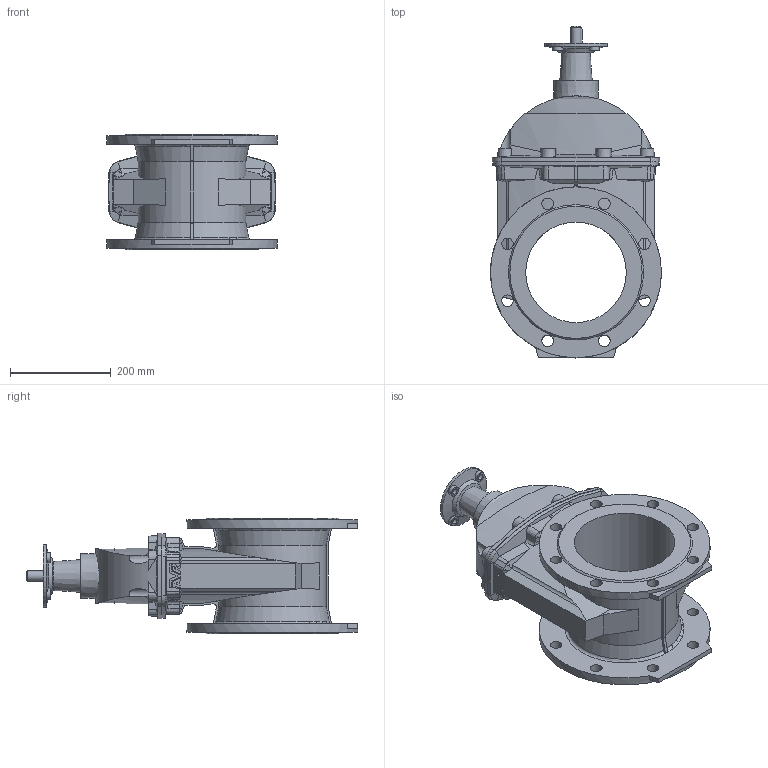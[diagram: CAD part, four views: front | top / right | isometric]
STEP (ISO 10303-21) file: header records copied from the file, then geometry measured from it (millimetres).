
FILE_DESCRIPTION (( 'STEP AP203' ), '1' );
FILE_NAME ('O_15_42_DN200_X0XXX099_AA0.step', '2017-03-10T08:42:44', ( 'Windows User' ), ( 'AVK' ), 'SwSTEP 2.0', 'SolidWorks 2012', '' );
FILE_SCHEMA (( 'CONFIG_CONTROL_DESIGN' ));
Length unit declared in the file: inch
Products named in the file (1): O_15_42_DN200_X0XXX099_AA0
Bounding box: 340 x 660 x 230 mm (x, y, z)
Volume: 12140684.5 mm3; surface area: 852554.5 mm2
Topology: 1 solids, 1 shells, 364 faces, 1029 edges, 668 vertices
Faces by surface type: plane 167, cylinder 95, cone 86, sphere 10, bspline 4, torus 2
Full cylindrical faces by diameter (mm): 12 x4, 20 x5, 23 x16, 125 x1, 200 x1, 340 x2
Entity records: 13430 total; most frequent: CARTESIAN_POINT 4586, ORIENTED_EDGE 1900, DIRECTION 1670, EDGE_CURVE 950, VERTEX_POINT 640, AXIS2_PLACEMENT_3D 596, LINE 478, VECTOR 478
